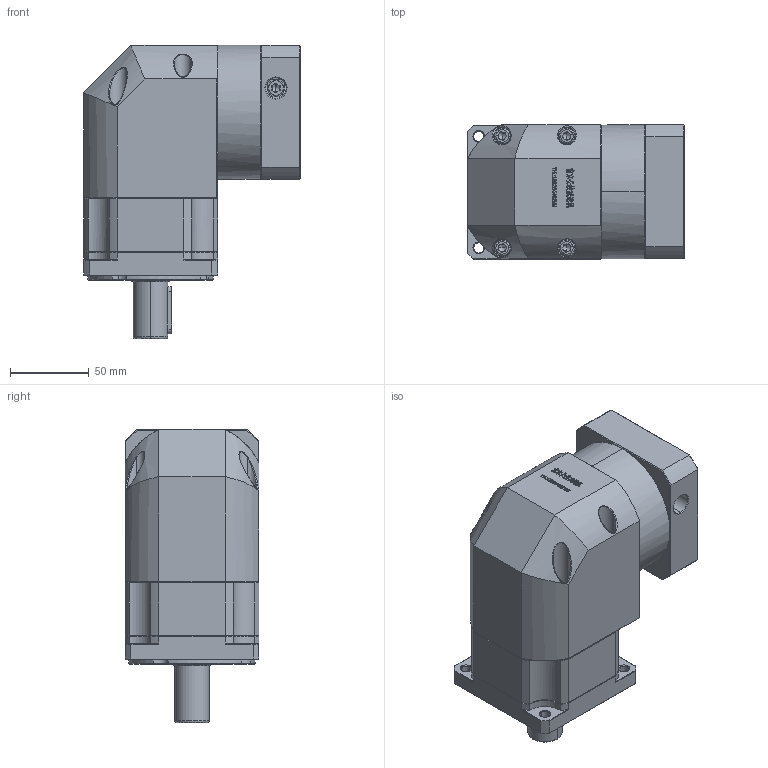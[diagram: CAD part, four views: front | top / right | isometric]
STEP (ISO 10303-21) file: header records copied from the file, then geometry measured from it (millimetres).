
FILE_DESCRIPTION (( 'STEP AP214' ), '1' );
FILE_NAME ('ZBR90-D22-L1-19-70-90-M5.STEP', '2022-05-07T14:56:55', ( '' ), ( 'Microsoft' ), 'SwSTEP 2.0', 'SolidWorks 2016', '' );
FILE_SCHEMA (( 'AUTOMOTIVE_DESIGN' ));
Length unit declared in the file: millimetre
Products named in the file (1): ZBR90-D22-L1-19-70-90-M5
Bounding box: 137.6 x 85 x 186 mm (x, y, z)
Volume: 1189274.9 mm3; surface area: 129559.8 mm2
Topology: 5 solids, 5 shells, 3004 faces, 7953 edges, 5083 vertices
Faces by surface type: plane 1577, bspline 603, cylinder 447, cone 351, torus 26
Entity records: 163268 total; most frequent: CARTESIAN_POINT 60667, ORIENTED_EDGE 15830, DIRECTION 12065, EDGE_CURVE 7915, LINE 5281, VECTOR 5281, VERTEX_POINT 5083, AXIS2_PLACEMENT_3D 3392
